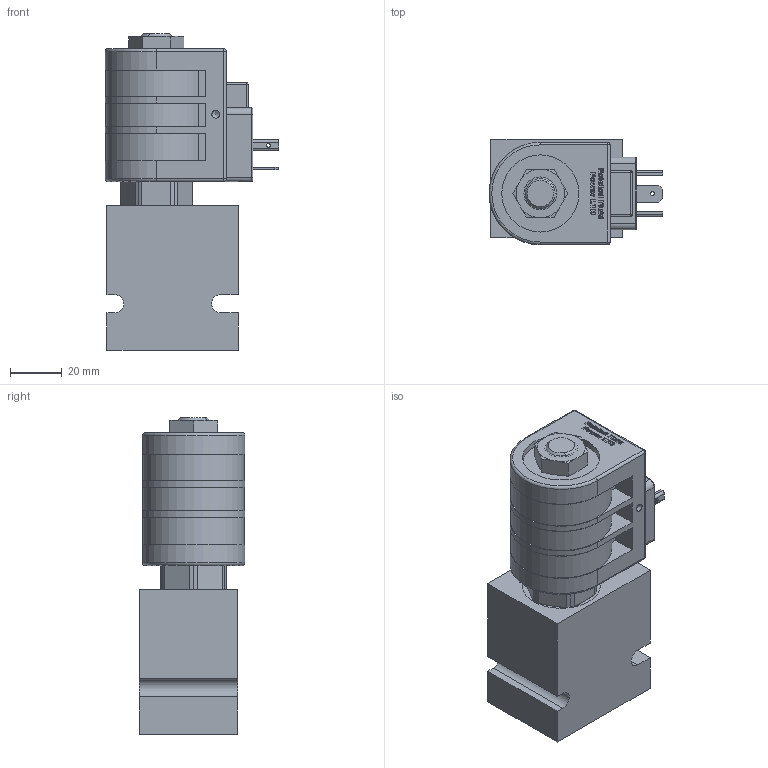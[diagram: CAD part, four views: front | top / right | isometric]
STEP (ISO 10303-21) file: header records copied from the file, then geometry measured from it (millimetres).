
FILE_DESCRIPTION( ( 'Unknown' ), '1' );
FILE_NAME( 'G:/Graphic Design/Graphic Design 2/Data Sheets/SOLENOID OPERATED VALVES/4_STEP/2W2P Normally Closed/HE-S2A00-B2.stp', 'Unknown', ( 'Unknown' ), ( 'Unknown' ), 'PSStep 15.0.49', 'Unknown', ' ' );
FILE_SCHEMA( ( 'AUTOMOTIVE_DESIGN { 1 0 10303 214 1 1 1 1 }' ) );
Length unit declared in the file: millimetre
Products named in the file (16): D-LHC12 or 24; LHC-Body; LHC-Disc; PT-EL-HC-TerminalConnectors; D-HE-S2A-00; HES2A00-3D Full2; HES2A00-3D Full3; HES2A00-3D Full4; HES2A00-3D Full1; Delta_1_2_nut1 - Copy; Assem1; B-DDEB2
Assembly tree (16 placements, depth 3):
  Assem1
    B-DDEB2
    D-HE-S2A-00
      HES2A00-3D Full2
      HES2A00-3D Full3
      HES2A00-3D Full4
      HES2A00-3D Full1
      HES2A00-3D Full1
      Delta_1_2_nut1 - Copy
    D-LHC12 or 24
      LHC-Body
      LHC-Disc  x2
      PT-EL-HC-TerminalConnectors
      PT-EL-HC-TerminalConnectors
      PT-EL-HC-TerminalConnectors
      PT-EL-HC-TerminalConnectors
Bounding box: 67.2 x 40.9 x 122.5 mm (x, y, z)
Volume: 166064 mm3; surface area: 48015.8 mm2
Topology: 12 solids, 179 shells, 698 faces, 2198 edges, 1719 vertices
Faces by surface type: plane 320, cylinder 130, extrusion 118, cone 106, torus 18, sphere 6
Full cylindrical faces by diameter (mm): 0.2 x2, 1 x1, 1.5 x3, 2.5 x1, 3 x2, 12 x1, 13.043 x1, 14 x1, 15 x4, 15.735 x1, 15.9 x1, 16.1 x3, 17.043 x1, 20.262 x2, 24.2 x2, 29.85 x2, 30.175 x1, 32 x2
Entity records: 34786 total; most frequent: CARTESIAN_POINT 11146, ORIENTED_EDGE 3406, DIRECTION 3205, EDGE_CURVE 2111, VERTEX_POINT 1695, VECTOR 1155, LINE 1037, AXIS2_PLACEMENT_3D 1025
